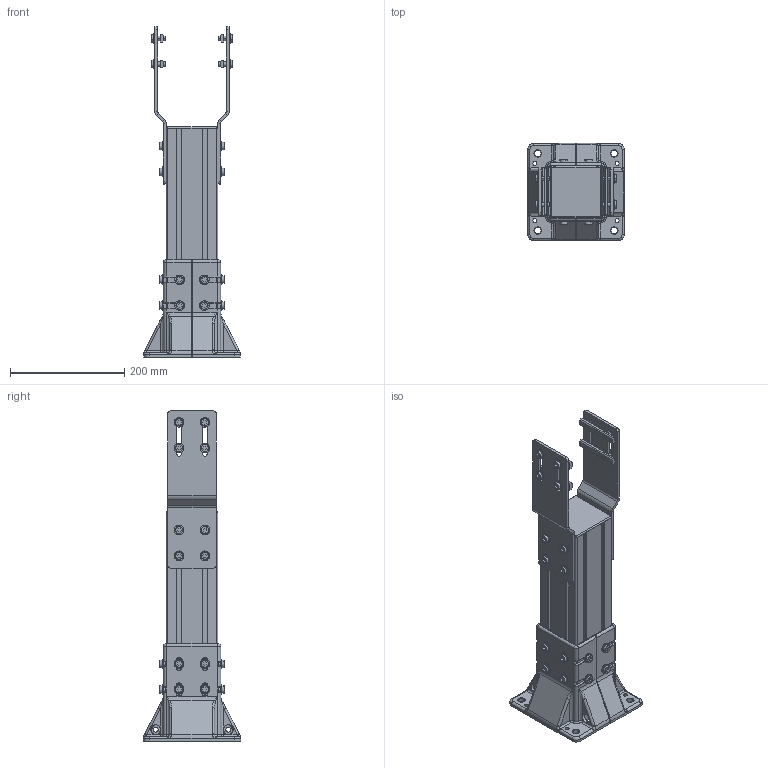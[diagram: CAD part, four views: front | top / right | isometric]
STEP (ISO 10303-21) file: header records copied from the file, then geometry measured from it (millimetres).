
FILE_DESCRIPTION (( 'STEP AP203' ), '1' );
FILE_NAME ('2000.450.KB.STEP', '2018-03-13T10:18:03', ( '' ), ( '' ), 'SwSTEP 2.0', 'SolidWorks 2016', '' );
FILE_SCHEMA (( 'CONFIG_CONTROL_DESIGN' ));
Length unit declared in the file: millimetre
Products named in the file (9): 084.301.000 VITI ALUSIC_084.301.003; 084.302.016; 084.409.011; 084.409.011-L; RONDELLE UNI 6592_8.4x17 UNI 6592; 2000.450.KB.XXXX.PROFILO_Default<A macchina>; 084.201.023; 2000.450.006L; 2000.450.KB
Assembly tree (87 placements, depth 3):
  2000.450.KB
    2000.450.KB.XXXX.PROFILO_Default<A macchina>
    2000.450.006L  x2
    084.409.011
      084.409.011-L  x2
    084.201.023
    084.302.016  x16
    084.301.000 VITI ALUSIC_084.301.003  x32
    RONDELLE UNI 6592_8.4x17 UNI 6592  x32
Bounding box: 169 x 170 x 577.5 mm (x, y, z)
Volume: 1674392 mm3; surface area: 936157.3 mm2
Topology: 86 solids, 86 shells, 1736 faces, 4140 edges, 2598 vertices
Faces by surface type: plane 806, cylinder 644, torus 164, cone 64, bspline 36, sphere 22
Entity records: 20789 total; most frequent: CARTESIAN_POINT 3789, DIRECTION 3107, ORIENTED_EDGE 2818, EDGE_CURVE 1409, AXIS2_PLACEMENT_3D 1139, VERTEX_POINT 885, VECTOR 829, LINE 829
